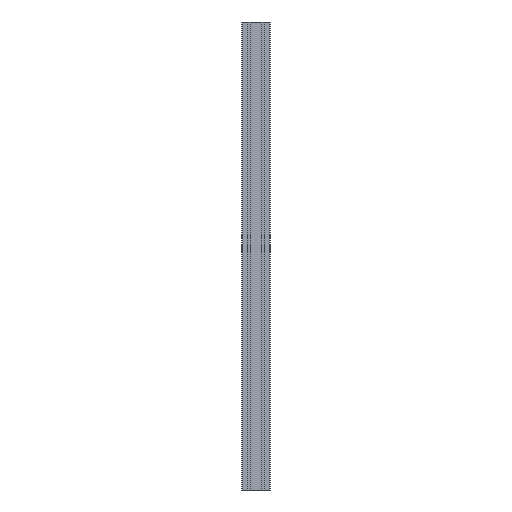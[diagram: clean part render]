
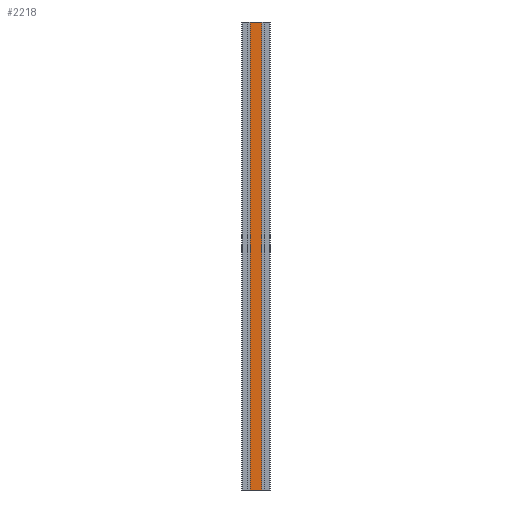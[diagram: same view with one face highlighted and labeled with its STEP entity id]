
A CAD part, front view. The second image highlights one B-rep face of the part: STEP entity #2218.
In plain terms, the highlighted planar face has unit normal (0, -1, 0).
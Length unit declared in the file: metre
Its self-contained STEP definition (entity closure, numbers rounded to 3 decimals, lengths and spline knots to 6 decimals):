
#48=PLANE('',#2369);
#156=FACE_OUTER_BOUND('',#274,.T.);
#274=EDGE_LOOP('',(#1632,#1633,#1634,#1635));
#422=LINE('',#3240,#702);
#423=LINE('',#3243,#703);
#424=LINE('',#3245,#704);
#425=LINE('',#3246,#705);
#702=VECTOR('',#2649,1.);
#703=VECTOR('',#2652,0.0237);
#704=VECTOR('',#2653,0.0237);
#705=VECTOR('',#2654,1.);
#1036=VERTEX_POINT('',#3236);
#1037=VERTEX_POINT('',#3238);
#1038=VERTEX_POINT('',#3242);
#1039=VERTEX_POINT('',#3244);
#1282=EDGE_CURVE('',#1036,#1037,#422,.T.);
#1283=EDGE_CURVE('',#1038,#1036,#423,.T.);
#1284=EDGE_CURVE('',#1039,#1037,#424,.T.);
#1285=EDGE_CURVE('',#1038,#1039,#425,.T.);
#1632=ORIENTED_EDGE('',*,*,#1283,.T.);
#1633=ORIENTED_EDGE('',*,*,#1282,.T.);
#1634=ORIENTED_EDGE('',*,*,#1284,.F.);
#1635=ORIENTED_EDGE('',*,*,#1285,.F.);
#2218=ADVANCED_FACE('',(#156),#48,.T.);
#2369=AXIS2_PLACEMENT_3D('',#3241,#2650,#2651);
#2649=DIRECTION('',(0.,0.,1.));
#2650=DIRECTION('center_axis',(0.,-1.,0.));
#2651=DIRECTION('ref_axis',(0.,0.,-1.));
#2652=DIRECTION('',(1.,0.,0.));
#2653=DIRECTION('',(1.,0.,0.));
#2654=DIRECTION('',(0.,0.,1.));
#3236=CARTESIAN_POINT('',(0.01185,-0.015,0.));
#3238=CARTESIAN_POINT('',(0.01185,-0.015,1.));
#3240=CARTESIAN_POINT('',(0.01185,-0.015,0.));
#3241=CARTESIAN_POINT('Origin',(-0.01185,-0.015,0.));
#3242=CARTESIAN_POINT('',(-0.01185,-0.015,0.));
#3243=CARTESIAN_POINT('',(-0.01185,-0.015,0.));
#3244=CARTESIAN_POINT('',(-0.01185,-0.015,1.));
#3245=CARTESIAN_POINT('',(-0.01185,-0.015,1.));
#3246=CARTESIAN_POINT('',(-0.01185,-0.015,0.));
